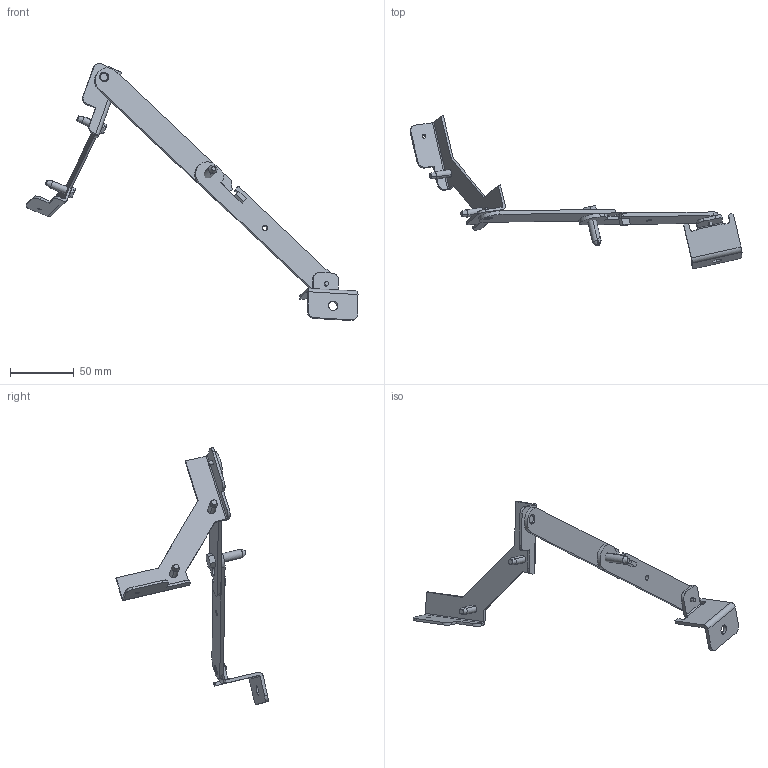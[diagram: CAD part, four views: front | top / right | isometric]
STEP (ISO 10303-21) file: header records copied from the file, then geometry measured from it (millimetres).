
FILE_DESCRIPTION (( 'STEP AP203' ), '1' );
FILE_NAME ('UDS01_V1.step', '2015-01-27T07:35:33', ( '' ), ( '' ), 'SwSTEP 2.0', 'SolidWorks 2014', '' );
FILE_SCHEMA (( 'CONFIG_CONTROL_DESIGN' ));
Length unit declared in the file: millimetre
Products named in the file (8): 40035615L; 40035616_1; UDS01_V1; 10030786_1; 10019545_SYMPLIFIED_1; 10019956_1; 40035614_1; 40035613
Assembly tree (9 placements, depth 2):
  UDS01_V1
    40035614_1
    40035613
    40035615L
    40035616_1
    10030786_1  x2
    10019545_SYMPLIFIED_1
    10019956_1  x2
Bounding box: 261.01 x 119.82 x 202.03 mm (x, y, z)
Volume: 34124.9 mm3; surface area: 31130.8 mm2
Topology: 9 solids, 9 shells, 215 faces, 555 edges, 365 vertices
Faces by surface type: plane 112, cylinder 73, cone 30
Entity records: 6597 total; most frequent: CARTESIAN_POINT 1117, DIRECTION 974, ORIENTED_EDGE 946, EDGE_CURVE 473, AXIS2_PLACEMENT_3D 338, VERTEX_POINT 312, LINE 298, VECTOR 298
